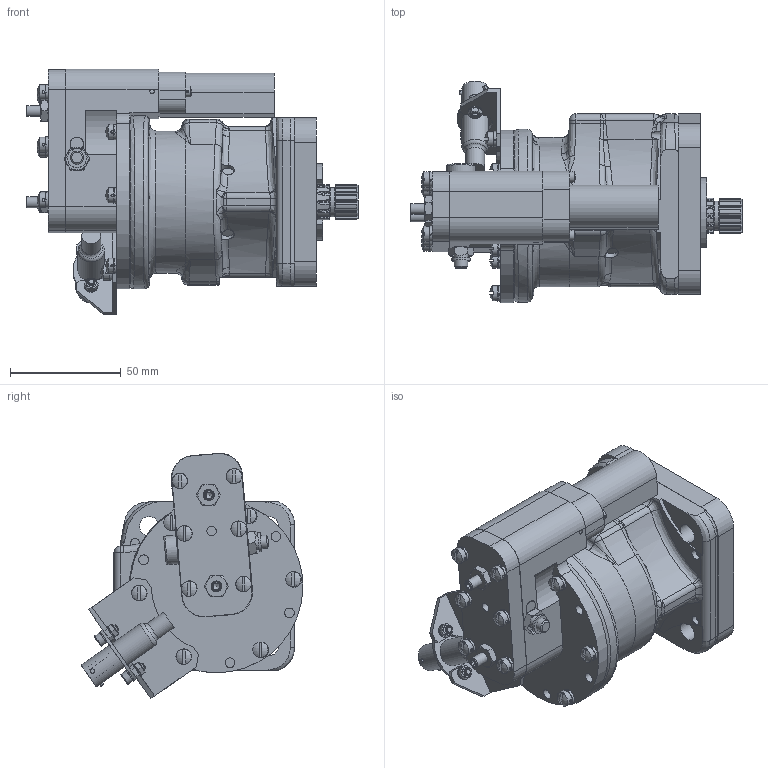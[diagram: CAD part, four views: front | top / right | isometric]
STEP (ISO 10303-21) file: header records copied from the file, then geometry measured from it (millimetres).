
FILE_DESCRIPTION(/* description */ (''),/* implementation_level */ '2;1');
FILE_NAME(/* name */ 'Z:\CAD-DATEN\CAD-3D\Regler\P-853-77.stp',/* time_stamp */ '2021-01-18T14:59:18+01:00',/* author */ ('MT60'),/* organization */ (''),/* preprocessor_version */ 'ST-DEVELOPER v18.1',/* originating_system */ 'Autodesk Inventor 2020',/* authorisation */ '');
FILE_SCHEMA (('AUTOMOTIVE_DESIGN { 1 0 10303 214 3 1 1 }'));
Products named in the file (45): P-853-77; P-853-12_1; P-853-12_2; P-853-12_3; P-853-12_4; P-853-12_5; P-853-12_6; P-853-12_8; P-853-12_10; P-853-12_12; P-853-12_14; P-853-12_16; P-853-12_18; P-853-12_20; P-853-12_21; P-853-12_23; P-853-12_25; P-853-12_26; P-853-12_28; P-853-12_29; P-853-12_30; P-853-12_31; P-853-12_33; P-853-12_35; P-853-12_36; P-853-12_37; P-853-12_38; P-853-12_39; P-853-12_40; P-853-12_41; P-853-12_42; P-853-12_43; P-853-12_44; P-853-12_45; P-853-12_46; P-853-12_47; P-853-12_48; P-853-12_49; P-853-12_50; 220-0299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
Assembly tree (60 placements, depth 2):
  P-853-77
    P-853-12_1
    P-853-12_2
    P-853-12_3
    P-853-12_4
    P-853-12_5
    P-853-12_6
    P-853-12_8
    P-853-12_10
    P-853-12_12
    P-853-12_14
    P-853-12_16
    P-853-12_18
    P-853-12_20
    P-853-12_21
    P-853-12_23
    P-853-12_25
    P-853-12_26
    P-853-12_28
    P-853-12_29
    P-853-12_30
    P-853-12_31
    P-853-12_33
    P-853-12_35
    P-853-12_36
    P-853-12_37
    P-853-12_38
    P-853-12_39
    P-853-12_40
    P-853-12_41
    P-853-12_42
    P-853-12_43
    P-853-12_44
    P-853-12_45
    P-853-12_46
    P-853-12_47
    P-853-12_48
    P-853-12_49
    P-853-12_50
    DIN 7980 - 4  x12
    220-0299
    8STA0-08-35PN
    ISO 7092 - ST 3 - 140 HV  x4
    ISO 4762 - M3 x 8ISO  x2
    ISO 4032 - M3 - ISO  x2
Bounding box: 149.8 x 100.1 x 110.64 mm (x, y, z)
Volume: 298108.9 mm3; surface area: 135566.7 mm2
Topology: 59 solids, 60 shells, 1832 faces, 5131 edges, 3436 vertices
Faces by surface type: cylinder 858, plane 543, bspline 169, cone 161, sphere 60, torus 41
Full cylindrical faces by diameter (mm): 0.5 x6, 0.94 x2, 1.168 x12, 1.2 x2, 1.7 x2, 2 x8, 2.385 x2, 2.4 x2, 2.455 x2, 2.459 x2, 2.845 x2, 3 x5, 3.2 x6, 3.302 x6, 3.4 x2, 3.531 x8, 3.679 x12, 3.962 x2, 3.967 x2, 4 x6, 4.166 x17, 4.4 x12, 4.5 x12, 4.567 x2, 4.648 x2, 4.826 x2, 4.917 x2, 5 x12, 5.4 x2, 5.5 x2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
Entity records: 72538 total; most frequent: CARTESIAN_POINT 25727, DIRECTION 9879, ORIENTED_EDGE 9621, EDGE_CURVE 4811, AXIS2_PLACEMENT_3D 4141, VERTEX_POINT 3242, CIRCLE 2286, EDGE_LOOP 1976
